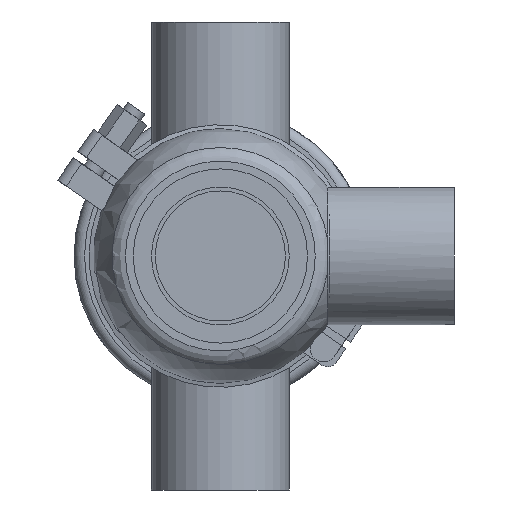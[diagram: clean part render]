
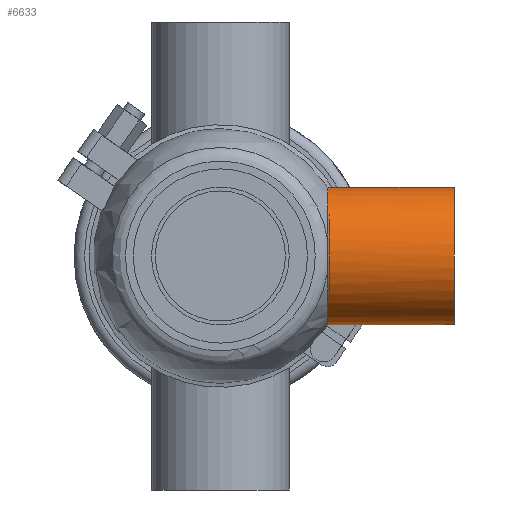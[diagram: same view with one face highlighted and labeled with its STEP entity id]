
A CAD part, front view. The second image highlights one B-rep face of the part: STEP entity #6633.
In plain terms, the highlighted cylindrical face has radius 26.5 mm (diameter 53 mm), a full revolution.
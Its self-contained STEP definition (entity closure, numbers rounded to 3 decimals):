
#133 = EDGE_CURVE ( 'NONE', #2874, #10140, #6768, .T. ) ;
#1076 = DIRECTION ( 'NONE',  ( -1., 0., 0. ) ) ;
#1811 = CARTESIAN_POINT ( 'NONE',  ( 41.216, -25.976, -5.353 ) ) ;
#2111 = CARTESIAN_POINT ( 'NONE',  ( 41.216, 0., 0. ) ) ;
#2874 = VERTEX_POINT ( 'NONE', #17484 ) ;
#3511 = EDGE_CURVE ( 'NONE', #13918, #13918, #7797, .T. ) ;
#3931 = CARTESIAN_POINT ( 'NONE',  ( 90., 0., 26.5 ) ) ;
#4066 = DIRECTION ( 'NONE',  ( 1., 0., 0. ) ) ;
#5076 = CARTESIAN_POINT ( 'NONE',  ( 41.216, -25.976, 5.353 ) ) ;
#5999 = EDGE_LOOP ( 'NONE', ( #6297 ) ) ;
#6297 = ORIENTED_EDGE ( 'NONE', *, *, #3511, .T. ) ;
#6607 = CARTESIAN_POINT ( 'NONE',  ( 0., 0., 0. ) ) ;
#6633 = ADVANCED_FACE ( 'NONE', ( #11864, #18222 ), #6929, .T. ) ;
#6768 = B_SPLINE_CURVE_WITH_KNOTS ( 'NONE', 3,
 ( #10464, #5076, #6919, #11654, #16648, #18649, #6820, #10134, #20279, #8872, #1811, #16764 ),
 .UNSPECIFIED., .F., .F.,
 ( 4, 2, 2, 2, 2, 4 ),
 ( 0., 0.003, 0.006, 0.008, 0.01, 0.013 ),
 .UNSPECIFIED. ) ;
#6797 = CARTESIAN_POINT ( 'NONE',  ( 90., 0., 0. ) ) ;
#6820 = CARTESIAN_POINT ( 'NONE',  ( 41.151, -26.485, -1.052 ) ) ;
#6919 = CARTESIAN_POINT ( 'NONE',  ( 41.196, -26.172, 4.294 ) ) ;
#6929 = CYLINDRICAL_SURFACE ( 'NONE', #17033, 26.5 ) ;
#7797 = CIRCLE ( 'NONE', #19942, 26.5 ) ;
#7875 = CARTESIAN_POINT ( 'NONE',  ( 41.216, -25.714, -6.407 ) ) ;
#8340 = AXIS2_PLACEMENT_3D ( 'NONE', #2111, #4066, #12483 ) ;
#8872 = CARTESIAN_POINT ( 'NONE',  ( 41.196, -26.173, -4.288 ) ) ;
#9575 = EDGE_LOOP ( 'NONE', ( #19071, #13796 ) ) ;
#9820 = DIRECTION ( 'NONE',  ( 0., 0., 1. ) ) ;
#10134 = CARTESIAN_POINT ( 'NONE',  ( 41.162, -26.42, -2.131 ) ) ;
#10140 = VERTEX_POINT ( 'NONE', #7875 ) ;
#10464 = CARTESIAN_POINT ( 'NONE',  ( 41.216, -25.714, 6.407 ) ) ;
#11552 = DIRECTION ( 'NONE',  ( -1., 0., 0. ) ) ;
#11654 = CARTESIAN_POINT ( 'NONE',  ( 41.162, -26.433, 2.166 ) ) ;
#11864 = FACE_OUTER_BOUND ( 'NONE', #9575, .T. ) ;
#12483 = DIRECTION ( 'NONE',  ( 0., 0., 1. ) ) ;
#13212 = DIRECTION ( 'NONE',  ( 0., 0., 1. ) ) ;
#13796 = ORIENTED_EDGE ( 'NONE', *, *, #133, .T. ) ;
#13918 = VERTEX_POINT ( 'NONE', #3931 ) ;
#16613 = CIRCLE ( 'NONE', #8340, 26.5 ) ;
#16648 = CARTESIAN_POINT ( 'NONE',  ( 41.148, -26.499, 1.097 ) ) ;
#16764 = CARTESIAN_POINT ( 'NONE',  ( 41.216, -25.714, -6.407 ) ) ;
#17033 = AXIS2_PLACEMENT_3D ( 'NONE', #6607, #11552, #13212 ) ;
#17484 = CARTESIAN_POINT ( 'NONE',  ( 41.216, -25.714, 6.407 ) ) ;
#18222 = FACE_OUTER_BOUND ( 'NONE', #5999, .T. ) ;
#18649 = CARTESIAN_POINT ( 'NONE',  ( 41.148, -26.5, -0.514 ) ) ;
#19071 = ORIENTED_EDGE ( 'NONE', *, *, #21129, .T. ) ;
#19942 = AXIS2_PLACEMENT_3D ( 'NONE', #6797, #1076, #9820 ) ;
#20279 = CARTESIAN_POINT ( 'NONE',  ( 41.17, -26.37, -2.673 ) ) ;
#21129 = EDGE_CURVE ( 'NONE', #10140, #2874, #16613, .T. ) ;
